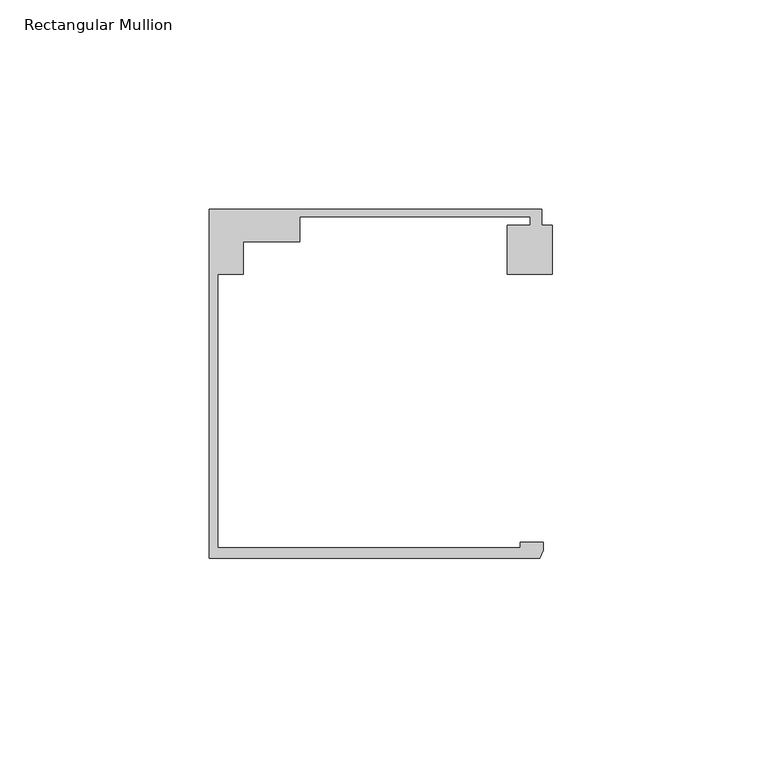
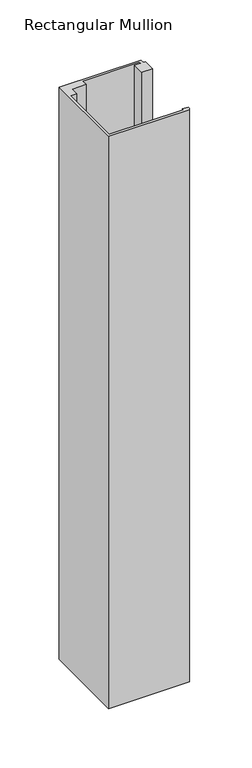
"""IFC4 building model written with IfcOpenShell, lengths in millimetres: member geometry, Rectangular Mullion : Danpal_Airpt_End-Mullion_B1."""

from ifc_helpers import new_model, si_unit, frame, origin, place, context, project, spatial, polyline, outline, extrude, source, transform, mapped, element, save


def rectangular_mullion_1a0bf495(model_context):
    return source(origin(), model_context, "Body", "SweptSolid", [
        extrude(outline(polyline([(24.3058808, -74.9940824), (24.3058808, -73.6940824), (29.8368746, -73.6940824), (29.8368746, -75.5472671), (28.9099149, -77.4940825), (-49.941586, -77.4940825), (-49.941586, 5.8051514), (29.4059014, 5.8051514), (29.4059014, 2.0051513), (31.9176464, 2.0051513), (31.9176464, -9.6875514), (21.2017673, -9.6875514), (21.2017673, 2.0051513), (26.7062306, 2.0051513), (26.7062306, 4.0051512), (-28.3937694, 4.0051512), (-28.3937694, -1.8818054), (-41.841586, -1.8818054), (-41.841586, -9.7188964), (-47.9415858, -9.7188964), (-47.9415858, -74.9940824), (24.3058808, -74.9940824)])), frame((0.0, 0.0, -588.004684), z_axis=(0.0, 0.0, 1.0), x_axis=(1.0, 0.0, 0.0)), (0.0, 0.0, 1.0), 588.004684),
    ])


if __name__ == "__main__":
    model = new_model("IFC4")
    model_context = context("Model", 3, world=origin())
    ifc_project = project(units=[si_unit("LENGTHUNIT", "METRE", prefix="MILLI")], contexts=[model_context])
    site = spatial("IfcSite", under=ifc_project)
    building = spatial("IfcBuilding", under=site)
    placement = place(None, origin())
    rectangular_mullion_shape = rectangular_mullion_1a0bf495(model_context)
    element("IfcMember", 1, ObjectType="Rectangular Mullion : Danpal_Airpt_End-Mullion_B1", at=placement, inside=building, context=model_context, shape_type="MappedRepresentation", body=[
        mapped(rectangular_mullion_shape, transform((0.0, 0.0, 0.0), x_axis=(1.0, 0.0, 0.0), y_axis=(0.0, 1.0, 0.0), z_axis=(0.0, 0.0, 1.0))),
    ])
    save(model, "model.ifc")
